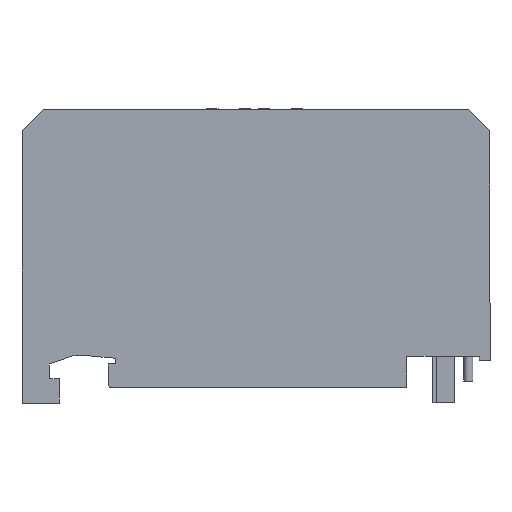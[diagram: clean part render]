
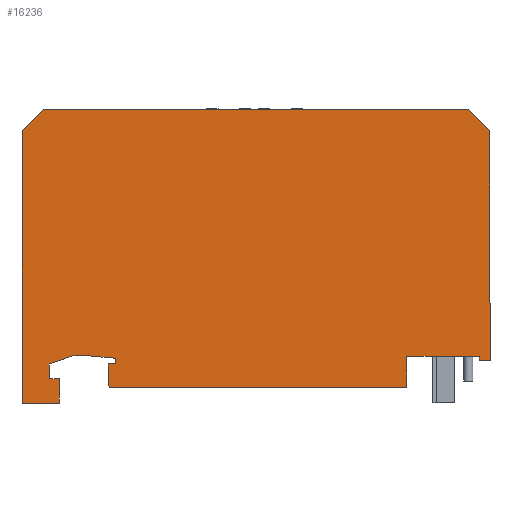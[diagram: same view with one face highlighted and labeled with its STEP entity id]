
A CAD part, left-side view. The second image highlights one B-rep face of the part: STEP entity #16236.
In plain terms, the highlighted planar face has unit normal (-1, 0, 0).
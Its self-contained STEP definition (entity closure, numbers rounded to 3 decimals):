
#998=FACE_OUTER_BOUND('',#1893,.T.);
#1893=EDGE_LOOP('',(#10735,#10736,#10737,#10738,#10739,#10740,#10741,#10742,
#10743,#10744,#10745,#10746,#10747,#10748,#10749,#10750,#10751,#10752,#10753,
#10754));
#2937=LINE('',#21598,#4714);
#2943=LINE('',#21609,#4720);
#2968=LINE('',#21659,#4745);
#2971=LINE('',#21664,#4748);
#2975=LINE('',#21672,#4752);
#3011=LINE('',#21742,#4788);
#3045=LINE('',#21815,#4822);
#3061=LINE('',#21849,#4838);
#3092=LINE('',#21909,#4869);
#3094=LINE('',#21913,#4871);
#3096=LINE('',#21917,#4873);
#3098=LINE('',#21921,#4875);
#3099=LINE('',#21922,#4876);
#3100=LINE('',#21924,#4877);
#3101=LINE('',#21926,#4878);
#3102=LINE('',#21928,#4879);
#3103=LINE('',#21930,#4880);
#3104=LINE('',#21932,#4881);
#3105=LINE('',#21934,#4882);
#3106=LINE('',#21935,#4883);
#4714=VECTOR('',#18145,10.);
#4720=VECTOR('',#18153,10.);
#4745=VECTOR('',#18188,10.);
#4748=VECTOR('',#18193,10.);
#4752=VECTOR('',#18199,10.);
#4788=VECTOR('',#18251,10.);
#4822=VECTOR('',#18329,10.);
#4838=VECTOR('',#18359,10.);
#4869=VECTOR('',#18412,10.);
#4871=VECTOR('',#18416,10.);
#4873=VECTOR('',#18420,10.);
#4875=VECTOR('',#18424,10.);
#4876=VECTOR('',#18425,10.);
#4877=VECTOR('',#18426,10.);
#4878=VECTOR('',#18427,10.);
#4879=VECTOR('',#18428,10.);
#4880=VECTOR('',#18429,10.);
#4881=VECTOR('',#18430,10.);
#4882=VECTOR('',#18431,10.);
#4883=VECTOR('',#18432,10.);
#6448=VERTEX_POINT('',#21595);
#6449=VERTEX_POINT('',#21597);
#6453=VERTEX_POINT('',#21607);
#6472=VERTEX_POINT('',#21656);
#6473=VERTEX_POINT('',#21658);
#6474=VERTEX_POINT('',#21662);
#6477=VERTEX_POINT('',#21670);
#6503=VERTEX_POINT('',#21741);
#6530=VERTEX_POINT('',#21846);
#6531=VERTEX_POINT('',#21848);
#6549=VERTEX_POINT('',#21908);
#6550=VERTEX_POINT('',#21912);
#6551=VERTEX_POINT('',#21916);
#6552=VERTEX_POINT('',#21920);
#6553=VERTEX_POINT('',#21923);
#6554=VERTEX_POINT('',#21925);
#6555=VERTEX_POINT('',#21927);
#6556=VERTEX_POINT('',#21929);
#6557=VERTEX_POINT('',#21931);
#6558=VERTEX_POINT('',#21933);
#8013=EDGE_CURVE('',#6449,#6448,#2937,.T.);
#8019=EDGE_CURVE('',#6453,#6448,#2943,.T.);
#8044=EDGE_CURVE('',#6472,#6473,#2968,.T.);
#8047=EDGE_CURVE('',#6474,#6472,#2971,.T.);
#8051=EDGE_CURVE('',#6477,#6474,#2975,.T.);
#8087=EDGE_CURVE('',#6473,#6503,#3011,.T.);
#8123=EDGE_CURVE('',#6503,#6453,#3045,.T.);
#8139=EDGE_CURVE('',#6531,#6530,#3061,.T.);
#8170=EDGE_CURVE('',#6549,#6449,#3092,.T.);
#8172=EDGE_CURVE('',#6550,#6549,#3094,.T.);
#8174=EDGE_CURVE('',#6551,#6550,#3096,.T.);
#8176=EDGE_CURVE('',#6477,#6552,#3098,.T.);
#8177=EDGE_CURVE('',#6552,#6531,#3099,.T.);
#8178=EDGE_CURVE('',#6530,#6553,#3100,.T.);
#8179=EDGE_CURVE('',#6553,#6554,#3101,.T.);
#8180=EDGE_CURVE('',#6554,#6555,#3102,.T.);
#8181=EDGE_CURVE('',#6555,#6556,#3103,.T.);
#8182=EDGE_CURVE('',#6556,#6557,#3104,.T.);
#8183=EDGE_CURVE('',#6557,#6558,#3105,.T.);
#8184=EDGE_CURVE('',#6558,#6551,#3106,.T.);
#10735=ORIENTED_EDGE('',*,*,#8013,.T.);
#10736=ORIENTED_EDGE('',*,*,#8019,.F.);
#10737=ORIENTED_EDGE('',*,*,#8123,.F.);
#10738=ORIENTED_EDGE('',*,*,#8087,.F.);
#10739=ORIENTED_EDGE('',*,*,#8044,.F.);
#10740=ORIENTED_EDGE('',*,*,#8047,.F.);
#10741=ORIENTED_EDGE('',*,*,#8051,.F.);
#10742=ORIENTED_EDGE('',*,*,#8176,.T.);
#10743=ORIENTED_EDGE('',*,*,#8177,.T.);
#10744=ORIENTED_EDGE('',*,*,#8139,.T.);
#10745=ORIENTED_EDGE('',*,*,#8178,.T.);
#10746=ORIENTED_EDGE('',*,*,#8179,.T.);
#10747=ORIENTED_EDGE('',*,*,#8180,.T.);
#10748=ORIENTED_EDGE('',*,*,#8181,.T.);
#10749=ORIENTED_EDGE('',*,*,#8182,.T.);
#10750=ORIENTED_EDGE('',*,*,#8183,.T.);
#10751=ORIENTED_EDGE('',*,*,#8184,.T.);
#10752=ORIENTED_EDGE('',*,*,#8174,.T.);
#10753=ORIENTED_EDGE('',*,*,#8172,.T.);
#10754=ORIENTED_EDGE('',*,*,#8170,.T.);
#14781=PLANE('',#17164);
#16236=ADVANCED_FACE('',(#998),#14781,.F.);
#17164=AXIS2_PLACEMENT_3D('',#21919,#18422,#18423);
#18145=DIRECTION('',(0.,-1.,0.));
#18153=DIRECTION('',(0.,0.,-1.));
#18188=DIRECTION('',(0.,-0.707,0.707));
#18193=DIRECTION('',(0.,0.,1.));
#18199=DIRECTION('',(0.,1.,0.));
#18251=DIRECTION('',(0.,-1.,0.));
#18329=DIRECTION('',(0.,-0.707,-0.707));
#18359=DIRECTION('',(0.,0.044,0.999));
#18412=DIRECTION('',(0.,0.,-1.));
#18416=DIRECTION('',(0.,-1.,0.));
#18420=DIRECTION('',(0.,0.,1.));
#18422=DIRECTION('center_axis',(1.,0.,0.));
#18423=DIRECTION('ref_axis',(0.,1.,0.));
#18424=DIRECTION('',(0.,0.,1.));
#18425=DIRECTION('',(0.,1.,0.));
#18426=DIRECTION('',(0.,-0.946,0.323));
#18427=DIRECTION('',(0.,-1.,0.));
#18428=DIRECTION('',(0.,-0.996,-0.094));
#18429=DIRECTION('',(0.,0.,-1.));
#18430=DIRECTION('',(0.,0.998,-0.06));
#18431=DIRECTION('',(0.,-0.035,-0.999));
#18432=DIRECTION('',(0.,-1.,0.));
#21595=CARTESIAN_POINT('',(-11.55,-7.1,-1.27));
#21597=CARTESIAN_POINT('',(-11.55,-3.62,-1.27));
#21598=CARTESIAN_POINT('',(-11.55,31.025,-1.27));
#21607=CARTESIAN_POINT('',(-11.55,-7.1,73.5));
#21609=CARTESIAN_POINT('',(-11.55,-7.1,73.5));
#21656=CARTESIAN_POINT('',(-11.55,145.4,73.5));
#21658=CARTESIAN_POINT('',(-11.55,138.4,80.5));
#21659=CARTESIAN_POINT('',(-11.55,145.4,73.5));
#21662=CARTESIAN_POINT('',(-11.55,145.4,-15.2));
#21664=CARTESIAN_POINT('',(-11.55,145.4,-15.2));
#21670=CARTESIAN_POINT('',(-11.55,133.25,-15.2));
#21672=CARTESIAN_POINT('',(-11.55,-7.1,-15.2));
#21741=CARTESIAN_POINT('',(-11.55,-0.1,80.5));
#21742=CARTESIAN_POINT('',(-11.55,138.4,80.5));
#21815=CARTESIAN_POINT('',(-11.55,-0.1,80.5));
#21846=CARTESIAN_POINT('',(-11.55,136.557,-2.45));
#21848=CARTESIAN_POINT('',(-11.55,136.35,-7.2));
#21849=CARTESIAN_POINT('',(-11.55,137.24,13.176));
#21908=CARTESIAN_POINT('',(-11.55,-3.62,0.));
#21909=CARTESIAN_POINT('',(-11.55,-3.62,10.852));
#21912=CARTESIAN_POINT('',(-11.55,19.98,0.));
#21913=CARTESIAN_POINT('',(-11.55,32.765,0.));
#21916=CARTESIAN_POINT('',(-11.55,19.98,-10.1));
#21917=CARTESIAN_POINT('',(-11.55,19.98,15.902));
#21919=CARTESIAN_POINT('Origin',(-11.55,69.15,31.805));
#21920=CARTESIAN_POINT('',(-11.55,133.25,-7.2));
#21921=CARTESIAN_POINT('',(-11.55,133.25,12.302));
#21922=CARTESIAN_POINT('',(-11.55,102.75,-7.2));
#21923=CARTESIAN_POINT('',(-11.55,128.8,0.2));
#21924=CARTESIAN_POINT('',(-11.55,97.258,10.975));
#21925=CARTESIAN_POINT('',(-11.55,123.4,0.2));
#21926=CARTESIAN_POINT('',(-11.55,96.275,0.2));
#21927=CARTESIAN_POINT('',(-11.55,114.95,-0.599));
#21928=CARTESIAN_POINT('',(-11.55,93.771,-2.601));
#21929=CARTESIAN_POINT('',(-11.55,114.95,-2.309));
#21930=CARTESIAN_POINT('',(-11.55,114.95,14.748));
#21931=CARTESIAN_POINT('',(-11.55,117.295,-2.45));
#21932=CARTESIAN_POINT('',(-11.55,92.282,-0.944));
#21933=CARTESIAN_POINT('',(-11.55,117.028,-10.1));
#21934=CARTESIAN_POINT('',(-11.55,117.641,7.442));
#21935=CARTESIAN_POINT('',(-11.55,31.025,-10.1));
